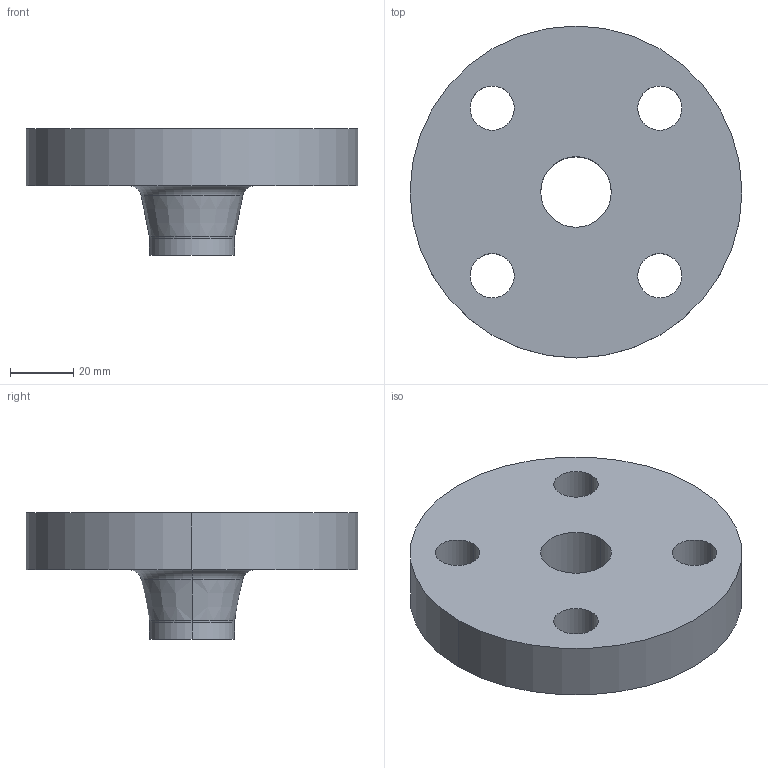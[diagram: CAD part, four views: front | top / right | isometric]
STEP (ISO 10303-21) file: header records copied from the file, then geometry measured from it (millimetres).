
FILE_DESCRIPTION (( 'STEP AP214' ), '1' );
FILE_NAME ('PN40 DN20 Type 11 - Type A Face.STEP', '2018-12-29T18:21:27', ( '' ), ( '' ), 'SwSTEP 2.0', 'SolidWorks 2019', '' );
FILE_SCHEMA (( 'AUTOMOTIVE_DESIGN' ));
Length unit declared in the file: millimetre
Products named in the file (1): PN40 DN20 Type 11 - Type A Face
Bounding box: 105 x 105 x 40 mm (x, y, z)
Volume: 144338.2 mm3; surface area: 28853.3 mm2
Topology: 1 solids, 1 shells, 23 faces, 54 edges, 34 vertices
Faces by surface type: cylinder 14, torus 4, plane 3, cone 2
Entity records: 732 total; most frequent: DIRECTION 140, CARTESIAN_POINT 112, ORIENTED_EDGE 108, AXIS2_PLACEMENT_3D 62, EDGE_CURVE 54, CIRCLE 38, EDGE_LOOP 34, VERTEX_POINT 34
